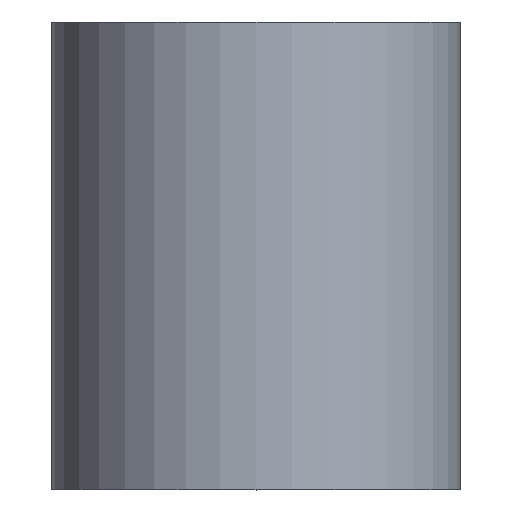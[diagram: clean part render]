
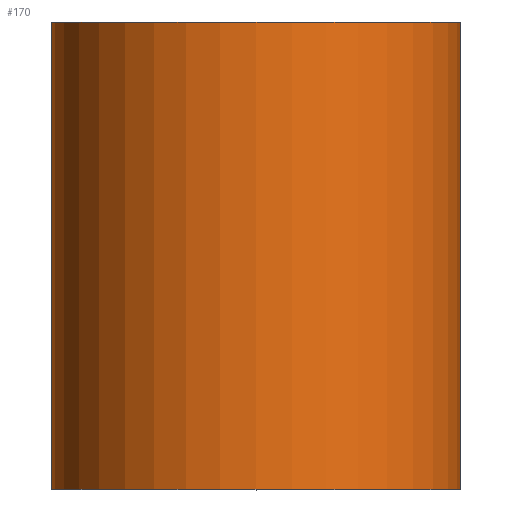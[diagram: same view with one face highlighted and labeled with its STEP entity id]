
A CAD part, top view. The second image highlights one B-rep face of the part: STEP entity #170.
In plain terms, the highlighted cylindrical face has radius 3.5 mm (diameter 7 mm), a partial arc.
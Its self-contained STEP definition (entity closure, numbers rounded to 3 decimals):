
#2 = ORIENTED_EDGE ( 'NONE', *, *, #78, .T. ) ;
#9 = CARTESIAN_POINT ( 'NONE',  ( 0., 0., 0. ) ) ;
#10 = CARTESIAN_POINT ( 'NONE',  ( -3.5, 0., 0. ) ) ;
#18 = LINE ( 'NONE', #274, #96 ) ;
#19 = FACE_OUTER_BOUND ( 'NONE', #86, .T. ) ;
#21 = ORIENTED_EDGE ( 'NONE', *, *, #92, .T. ) ;
#33 = DIRECTION ( 'NONE',  ( 0., 1., 0. ) ) ;
#52 = CARTESIAN_POINT ( 'NONE',  ( 0., 8., 0. ) ) ;
#57 = VERTEX_POINT ( 'NONE', #182 ) ;
#65 = VECTOR ( 'NONE', #246, 1000. ) ;
#73 = AXIS2_PLACEMENT_3D ( 'NONE', #9, #33, #193 ) ;
#76 = ORIENTED_EDGE ( 'NONE', *, *, #111, .F. ) ;
#77 = DIRECTION ( 'NONE',  ( 0., 1., 0. ) ) ;
#78 = EDGE_CURVE ( 'NONE', #148, #57, #137, .T. ) ;
#86 = EDGE_LOOP ( 'NONE', ( #2, #21, #76, #285 ) ) ;
#92 = EDGE_CURVE ( 'NONE', #57, #278, #297, .T. ) ;
#96 = VECTOR ( 'NONE', #256, 1000. ) ;
#111 = EDGE_CURVE ( 'NONE', #163, #278, #248, .T. ) ;
#124 = CARTESIAN_POINT ( 'NONE',  ( 3.5, 0., 0. ) ) ;
#137 = CIRCLE ( 'NONE', #207, 3.5 ) ;
#145 = DIRECTION ( 'NONE',  ( -1., 0., 0. ) ) ;
#148 = VERTEX_POINT ( 'NONE', #10 ) ;
#149 = CARTESIAN_POINT ( 'NONE',  ( -3.5, 8., 0. ) ) ;
#150 = CARTESIAN_POINT ( 'NONE',  ( 0., 0., 0. ) ) ;
#163 = VERTEX_POINT ( 'NONE', #149 ) ;
#170 = ADVANCED_FACE ( 'NONE', ( #19 ), #216, .T. ) ;
#182 = CARTESIAN_POINT ( 'NONE',  ( 3.5, 0., 0. ) ) ;
#193 = DIRECTION ( 'NONE',  ( -1., 0., 0. ) ) ;
#206 = EDGE_CURVE ( 'NONE', #148, #163, #18, .T. ) ;
#207 = AXIS2_PLACEMENT_3D ( 'NONE', #150, #77, #220 ) ;
#216 = CYLINDRICAL_SURFACE ( 'NONE', #73, 3.5 ) ;
#220 = DIRECTION ( 'NONE',  ( -1., 0., 0. ) ) ;
#246 = DIRECTION ( 'NONE',  ( 0., 1., 0. ) ) ;
#248 = CIRCLE ( 'NONE', #280, 3.5 ) ;
#256 = DIRECTION ( 'NONE',  ( 0., 1., 0. ) ) ;
#274 = CARTESIAN_POINT ( 'NONE',  ( -3.5, 0., 0. ) ) ;
#278 = VERTEX_POINT ( 'NONE', #281 ) ;
#280 = AXIS2_PLACEMENT_3D ( 'NONE', #52, #286, #145 ) ;
#281 = CARTESIAN_POINT ( 'NONE',  ( 3.5, 8., 0. ) ) ;
#285 = ORIENTED_EDGE ( 'NONE', *, *, #206, .F. ) ;
#286 = DIRECTION ( 'NONE',  ( 0., 1., 0. ) ) ;
#297 = LINE ( 'NONE', #124, #65 ) ;
